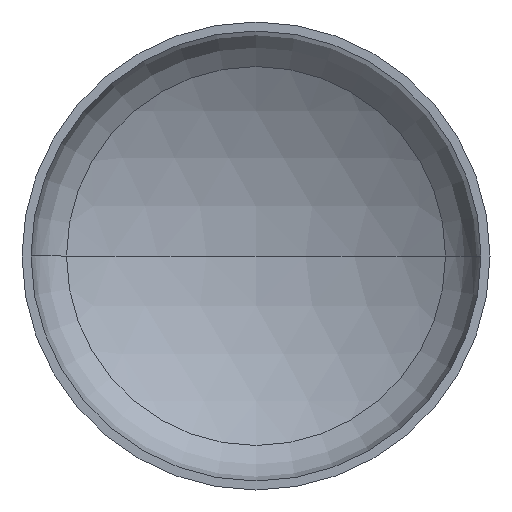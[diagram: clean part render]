
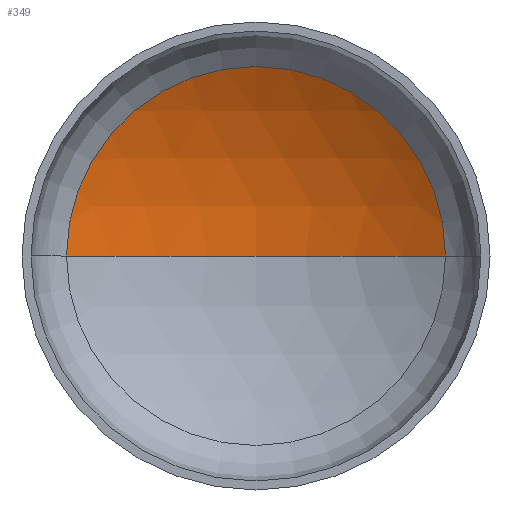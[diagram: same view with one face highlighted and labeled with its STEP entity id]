
A CAD part, front view. The second image highlights one B-rep face of the part: STEP entity #349.
In plain terms, the highlighted spherical face has radius 2240 mm.
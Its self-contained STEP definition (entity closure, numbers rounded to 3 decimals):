
#2 = AXIS2_PLACEMENT_3D ( 'NONE', #104, #366, #266 ) ;
#3 = AXIS2_PLACEMENT_3D ( 'NONE', #179, #155, #290 ) ;
#27 = EDGE_LOOP ( 'NONE', ( #32, #140, #34 ) ) ;
#32 = ORIENTED_EDGE ( 'NONE', *, *, #359, .F. ) ;
#34 = ORIENTED_EDGE ( 'NONE', *, *, #88, .T. ) ;
#37 = AXIS2_PLACEMENT_3D ( 'NONE', #160, #337, #193 ) ;
#38 = AXIS2_PLACEMENT_3D ( 'NONE', #214, #216, #199 ) ;
#62 = VERTEX_POINT ( 'NONE', #281 ) ;
#88 = EDGE_CURVE ( 'NONE', #109, #142, #235, .T. ) ;
#91 = EDGE_CURVE ( 'NONE', #62, #109, #162, .T. ) ;
#96 = FACE_OUTER_BOUND ( 'NONE', #27, .T. ) ;
#104 = CARTESIAN_POINT ( 'NONE',  ( 0., -1441.103, 0. ) ) ;
#109 = VERTEX_POINT ( 'NONE', #237 ) ;
#140 = ORIENTED_EDGE ( 'NONE', *, *, #91, .T. ) ;
#142 = VERTEX_POINT ( 'NONE', #208 ) ;
#155 = DIRECTION ( 'NONE',  ( 0., 0., -1. ) ) ;
#160 = CARTESIAN_POINT ( 'NONE',  ( 0., -1441.103, 0. ) ) ;
#162 = CIRCLE ( 'NONE', #37, 2240. ) ;
#179 = CARTESIAN_POINT ( 'NONE',  ( 0., -1441.103, 0. ) ) ;
#193 = DIRECTION ( 'NONE',  ( -1., 0., 0. ) ) ;
#199 = DIRECTION ( 'NONE',  ( 1., 0., 0. ) ) ;
#208 = CARTESIAN_POINT ( 'NONE',  ( -1133.613, 490.87, 0. ) ) ;
#214 = CARTESIAN_POINT ( 'NONE',  ( 0., 490.87, 0. ) ) ;
#216 = DIRECTION ( 'NONE',  ( 0., -1., 0. ) ) ;
#235 = CIRCLE ( 'NONE', #38, 1133.613 ) ;
#237 = CARTESIAN_POINT ( 'NONE',  ( 1133.613, 490.87, 0. ) ) ;
#266 = DIRECTION ( 'NONE',  ( 1., 0., 0. ) ) ;
#281 = CARTESIAN_POINT ( 'NONE',  ( 0., 798.897, 0. ) ) ;
#290 = DIRECTION ( 'NONE',  ( -1., 0., 0. ) ) ;
#323 = SPHERICAL_SURFACE ( 'NONE', #3, 2240. ) ;
#337 = DIRECTION ( 'NONE',  ( 0., 0., -1. ) ) ;
#349 = ADVANCED_FACE ( 'NONE', ( #96 ), #323, .F. ) ;
#359 = EDGE_CURVE ( 'NONE', #62, #142, #387, .T. ) ;
#366 = DIRECTION ( 'NONE',  ( 0., 0., 1. ) ) ;
#387 = CIRCLE ( 'NONE', #2, 2240. ) ;
